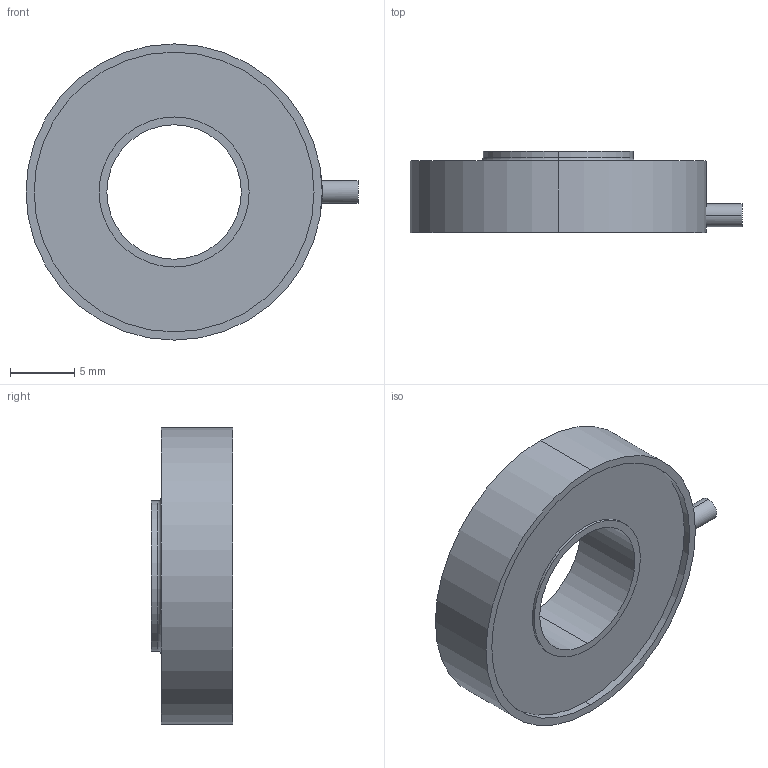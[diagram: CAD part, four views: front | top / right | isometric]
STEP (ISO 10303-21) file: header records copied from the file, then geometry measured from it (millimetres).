
FILE_DESCRIPTION (( 'STEP AP214' ), '1' );
FILE_NAME ('FINAL ASBY SS1706-500LB.STEP', '2024-08-12T14:52:54', ( '' ), ( '' ), 'SwSTEP 2.0', 'SolidWorks 2008', '' );
FILE_SCHEMA (( 'AUTOMOTIVE_DESIGN' ));
Length unit declared in the file: inch
Products named in the file (1): FINAL ASBY SS1706-500LB
Bounding box: 25.91 x 6.35 x 23.11 mm (x, y, z)
Volume: 1720.7 mm3; surface area: 1356.4 mm2
Topology: 1 solids, 1 shells, 20 faces, 40 edges, 26 vertices
Faces by surface type: cylinder 12, plane 6, torus 2
Entity records: 593 total; most frequent: CARTESIAN_POINT 119, DIRECTION 106, ORIENTED_EDGE 80, AXIS2_PLACEMENT_3D 47, EDGE_CURVE 40, EDGE_LOOP 26, CIRCLE 26, VERTEX_POINT 26
